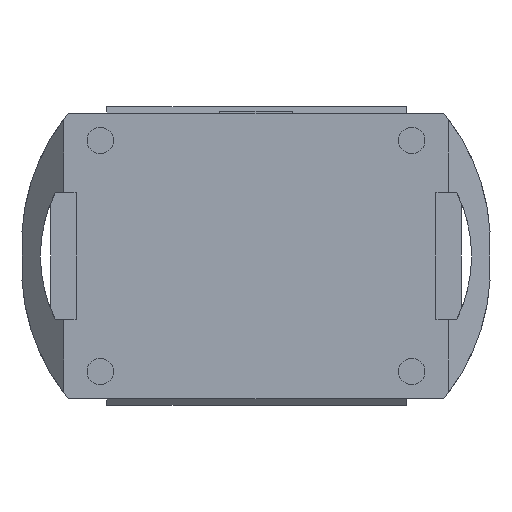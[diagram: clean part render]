
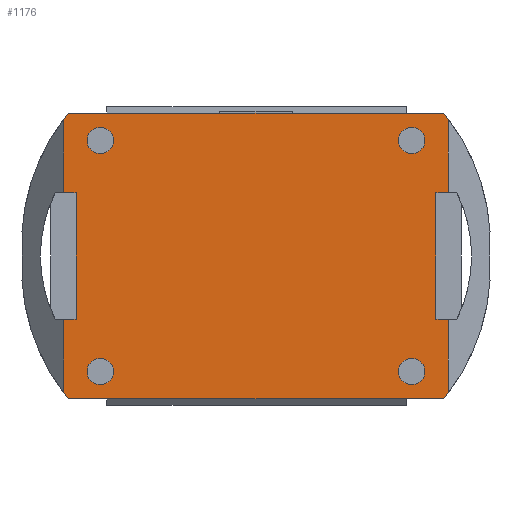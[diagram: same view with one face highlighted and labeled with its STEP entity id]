
A CAD part, front view. The second image highlights one B-rep face of the part: STEP entity #1176.
In plain terms, the highlighted planar face has unit normal (0, -1, 0).
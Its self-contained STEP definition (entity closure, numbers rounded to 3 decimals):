
#37=FACE_BOUND('',#218,.T.);
#38=FACE_BOUND('',#219,.T.);
#39=FACE_BOUND('',#220,.T.);
#40=FACE_BOUND('',#221,.T.);
#84=PLANE('',#1313);
#146=FACE_OUTER_BOUND('',#217,.T.);
#217=EDGE_LOOP('',(#937,#938,#939,#940,#941,#942,#943,#944,#945,#946,#947,
#948,#949,#950,#951,#952));
#218=EDGE_LOOP('',(#953));
#219=EDGE_LOOP('',(#954));
#220=EDGE_LOOP('',(#955));
#221=EDGE_LOOP('',(#956));
#286=LINE('',#1779,#408);
#293=LINE('',#1811,#415);
#301=LINE('',#1832,#423);
#303=LINE('',#1844,#425);
#305=LINE('',#1848,#427);
#311=LINE('',#1864,#433);
#314=LINE('',#1871,#436);
#317=LINE('',#1885,#439);
#318=LINE('',#1887,#440);
#323=LINE('',#1901,#445);
#324=LINE('',#1902,#446);
#325=LINE('',#1904,#447);
#408=VECTOR('',#1425,10.);
#415=VECTOR('',#1456,10.);
#423=VECTOR('',#1474,10.);
#425=VECTOR('',#1488,10.);
#427=VECTOR('',#1492,10.);
#433=VECTOR('',#1508,10.);
#436=VECTOR('',#1517,10.);
#439=VECTOR('',#1532,10.);
#440=VECTOR('',#1535,10.);
#445=VECTOR('',#1548,10.);
#446=VECTOR('',#1549,10.);
#447=VECTOR('',#1550,10.);
#513=CIRCLE('',#1264,12.018);
#515=CIRCLE('',#1273,185.863);
#516=CIRCLE('',#1276,12.018);
#518=CIRCLE('',#1286,185.863);
#519=CIRCLE('',#1289,12.018);
#521=CIRCLE('',#1301,185.863);
#522=CIRCLE('',#1304,12.018);
#524=CIRCLE('',#1314,185.863);
#544=VERTEX_POINT('',#1757);
#550=VERTEX_POINT('',#1773);
#552=VERTEX_POINT('',#1777);
#553=VERTEX_POINT('',#1781);
#555=VERTEX_POINT('',#1784);
#558=VERTEX_POINT('',#1792);
#564=VERTEX_POINT('',#1808);
#565=VERTEX_POINT('',#1810);
#567=VERTEX_POINT('',#1816);
#571=VERTEX_POINT('',#1823);
#574=VERTEX_POINT('',#1834);
#576=VERTEX_POINT('',#1841);
#577=VERTEX_POINT('',#1843);
#583=VERTEX_POINT('',#1863);
#584=VERTEX_POINT('',#1867);
#585=VERTEX_POINT('',#1873);
#588=VERTEX_POINT('',#1882);
#589=VERTEX_POINT('',#1884);
#594=VERTEX_POINT('',#1900);
#595=VERTEX_POINT('',#1903);
#657=EDGE_CURVE('',#544,#544,#513,.T.);
#667=EDGE_CURVE('',#550,#552,#286,.T.);
#669=EDGE_CURVE('',#555,#553,#515,.T.);
#673=EDGE_CURVE('',#558,#558,#516,.T.);
#681=EDGE_CURVE('',#564,#565,#293,.T.);
#688=EDGE_CURVE('',#571,#567,#518,.T.);
#692=EDGE_CURVE('',#571,#555,#301,.T.);
#693=EDGE_CURVE('',#574,#574,#519,.T.);
#697=EDGE_CURVE('',#577,#576,#303,.T.);
#700=EDGE_CURVE('',#550,#553,#305,.T.);
#708=EDGE_CURVE('',#577,#583,#311,.T.);
#711=EDGE_CURVE('',#584,#576,#521,.T.);
#712=EDGE_CURVE('',#583,#552,#314,.T.);
#713=EDGE_CURVE('',#585,#585,#522,.T.);
#718=EDGE_CURVE('',#588,#589,#317,.T.);
#720=EDGE_CURVE('',#564,#567,#318,.T.);
#727=EDGE_CURVE('',#588,#594,#323,.T.);
#728=EDGE_CURVE('',#594,#565,#324,.T.);
#729=EDGE_CURVE('',#595,#584,#325,.T.);
#730=EDGE_CURVE('',#595,#589,#524,.T.);
#937=ORIENTED_EDGE('',*,*,#727,.T.);
#938=ORIENTED_EDGE('',*,*,#728,.T.);
#939=ORIENTED_EDGE('',*,*,#681,.F.);
#940=ORIENTED_EDGE('',*,*,#720,.T.);
#941=ORIENTED_EDGE('',*,*,#688,.F.);
#942=ORIENTED_EDGE('',*,*,#692,.T.);
#943=ORIENTED_EDGE('',*,*,#669,.T.);
#944=ORIENTED_EDGE('',*,*,#700,.F.);
#945=ORIENTED_EDGE('',*,*,#667,.T.);
#946=ORIENTED_EDGE('',*,*,#712,.F.);
#947=ORIENTED_EDGE('',*,*,#708,.F.);
#948=ORIENTED_EDGE('',*,*,#697,.T.);
#949=ORIENTED_EDGE('',*,*,#711,.F.);
#950=ORIENTED_EDGE('',*,*,#729,.F.);
#951=ORIENTED_EDGE('',*,*,#730,.T.);
#952=ORIENTED_EDGE('',*,*,#718,.F.);
#953=ORIENTED_EDGE('',*,*,#673,.F.);
#954=ORIENTED_EDGE('',*,*,#657,.T.);
#955=ORIENTED_EDGE('',*,*,#693,.F.);
#956=ORIENTED_EDGE('',*,*,#713,.T.);
#1176=ADVANCED_FACE('',(#146,#37,#38,#39,#40),#84,.T.);
#1264=AXIS2_PLACEMENT_3D('',#1758,#1405,#1406);
#1273=AXIS2_PLACEMENT_3D('',#1785,#1430,#1431);
#1276=AXIS2_PLACEMENT_3D('',#1793,#1438,#1439);
#1286=AXIS2_PLACEMENT_3D('',#1825,#1467,#1468);
#1289=AXIS2_PLACEMENT_3D('',#1835,#1477,#1478);
#1301=AXIS2_PLACEMENT_3D('',#1869,#1513,#1514);
#1304=AXIS2_PLACEMENT_3D('',#1874,#1520,#1521);
#1313=AXIS2_PLACEMENT_3D('',#1899,#1546,#1547);
#1314=AXIS2_PLACEMENT_3D('',#1905,#1551,#1552);
#1405=DIRECTION('center_axis',(0.,1.,0.));
#1406=DIRECTION('ref_axis',(-1.,0.,0.));
#1425=DIRECTION('',(-1.,0.,0.));
#1430=DIRECTION('center_axis',(0.,-1.,0.));
#1431=DIRECTION('ref_axis',(0.998,0.,0.061));
#1438=DIRECTION('center_axis',(0.,-1.,0.));
#1439=DIRECTION('ref_axis',(1.,0.,0.));
#1456=DIRECTION('',(1.,0.,0.));
#1467=DIRECTION('center_axis',(0.,1.,0.));
#1468=DIRECTION('ref_axis',(-0.998,0.,0.061));
#1474=DIRECTION('',(1.,0.,0.));
#1477=DIRECTION('center_axis',(0.,-1.,0.));
#1478=DIRECTION('ref_axis',(-1.,0.,0.));
#1488=DIRECTION('',(0.,0.,1.));
#1492=DIRECTION('',(0.,0.,-1.));
#1508=DIRECTION('',(-1.,0.,0.));
#1513=DIRECTION('center_axis',(0.,1.,0.));
#1514=DIRECTION('ref_axis',(0.998,0.,-0.061));
#1517=DIRECTION('',(0.,0.,-1.));
#1520=DIRECTION('center_axis',(0.,1.,0.));
#1521=DIRECTION('ref_axis',(1.,0.,0.));
#1532=DIRECTION('',(0.,0.,1.));
#1535=DIRECTION('',(0.,0.,-1.));
#1546=DIRECTION('center_axis',(0.,-1.,0.));
#1547=DIRECTION('ref_axis',(1.,0.,0.));
#1548=DIRECTION('',(1.,0.,0.));
#1549=DIRECTION('',(0.,0.,-1.));
#1550=DIRECTION('',(1.,0.,0.));
#1551=DIRECTION('center_axis',(0.,-1.,0.));
#1552=DIRECTION('ref_axis',(-0.998,0.,-0.061));
#1757=CARTESIAN_POINT('',(153.518,-1.756,-105.));
#1758=CARTESIAN_POINT('Origin',(141.5,-1.756,-105.));
#1773=CARTESIAN_POINT('',(174.989,-1.756,-57.701));
#1777=CARTESIAN_POINT('',(163.584,-1.756,-57.701));
#1779=CARTESIAN_POINT('',(169.287,-1.756,-57.701));
#1781=CARTESIAN_POINT('',(174.989,-1.756,-124.027));
#1784=CARTESIAN_POINT('',(170.403,-1.756,-129.804));
#1785=CARTESIAN_POINT('Origin',(27.165,-1.756,-11.364));
#1792=CARTESIAN_POINT('',(-153.518,-1.756,-105.));
#1793=CARTESIAN_POINT('Origin',(-141.5,-1.756,-105.));
#1808=CARTESIAN_POINT('',(-174.989,-1.756,-57.701));
#1810=CARTESIAN_POINT('',(-163.584,-1.756,-57.701));
#1811=CARTESIAN_POINT('',(-169.287,-1.756,-57.701));
#1816=CARTESIAN_POINT('',(-174.989,-1.756,-124.027));
#1823=CARTESIAN_POINT('',(-170.403,-1.756,-129.804));
#1825=CARTESIAN_POINT('Origin',(-27.165,-1.756,-11.364));
#1832=CARTESIAN_POINT('',(0.,-1.756,-129.804));
#1834=CARTESIAN_POINT('',(153.518,-1.756,105.));
#1835=CARTESIAN_POINT('Origin',(141.5,-1.756,105.));
#1841=CARTESIAN_POINT('',(174.989,-1.756,124.027));
#1843=CARTESIAN_POINT('',(174.989,-1.756,57.701));
#1844=CARTESIAN_POINT('',(174.989,-1.756,0.));
#1848=CARTESIAN_POINT('',(174.989,-1.756,0.));
#1863=CARTESIAN_POINT('',(163.584,-1.756,57.701));
#1864=CARTESIAN_POINT('',(169.287,-1.756,57.701));
#1867=CARTESIAN_POINT('',(170.403,-1.756,129.804));
#1869=CARTESIAN_POINT('Origin',(27.165,-1.756,11.364));
#1871=CARTESIAN_POINT('',(163.584,-1.756,0.));
#1873=CARTESIAN_POINT('',(-153.518,-1.756,105.));
#1874=CARTESIAN_POINT('Origin',(-141.5,-1.756,105.));
#1882=CARTESIAN_POINT('',(-174.989,-1.756,57.701));
#1884=CARTESIAN_POINT('',(-174.989,-1.756,124.027));
#1885=CARTESIAN_POINT('',(-174.989,-1.756,0.));
#1887=CARTESIAN_POINT('',(-174.989,-1.756,0.));
#1899=CARTESIAN_POINT('Origin',(-174.989,-1.756,0.));
#1900=CARTESIAN_POINT('',(-163.584,-1.756,57.701));
#1901=CARTESIAN_POINT('',(-169.287,-1.756,57.701));
#1902=CARTESIAN_POINT('',(-163.584,-1.756,0.));
#1903=CARTESIAN_POINT('',(-170.403,-1.756,129.804));
#1904=CARTESIAN_POINT('',(0.,-1.756,129.804));
#1905=CARTESIAN_POINT('Origin',(-27.165,-1.756,11.364));
